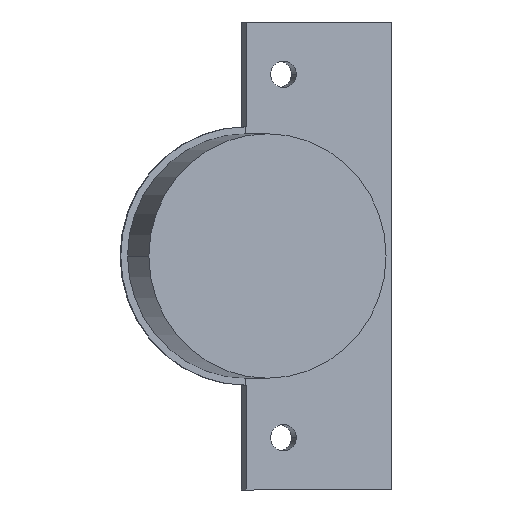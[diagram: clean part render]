
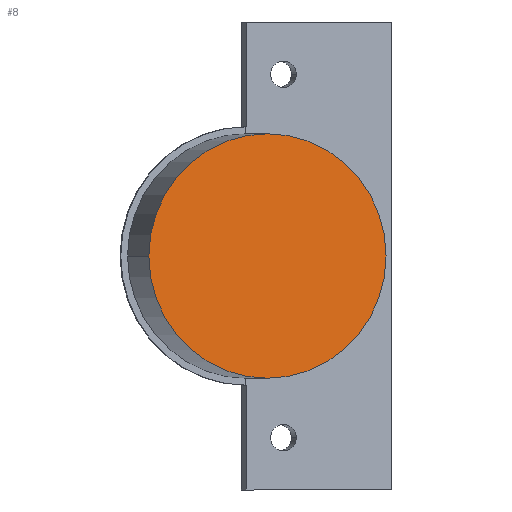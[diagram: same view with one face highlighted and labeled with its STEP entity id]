
A CAD part, front view. The second image highlights one B-rep face of the part: STEP entity #8.
In plain terms, the highlighted planar face has unit normal (0.242, -0.97, 0).
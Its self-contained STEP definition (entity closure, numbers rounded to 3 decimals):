
#8 = ADVANCED_FACE ( 'NONE', ( #852 ), #1262, .T. ) ;
#49 = AXIS2_PLACEMENT_3D ( 'NONE', #1410, #1411, #1412 ) ;
#52 = EDGE_CURVE ( 'NONE', #1163, #1160, #787, .T. ) ;
#168 = EDGE_CURVE ( 'NONE', #1160, #1163, #415, .T. ) ;
#181 = AXIS2_PLACEMENT_3D ( 'NONE', #1261, #1264, #1265 ) ;
#238 = AXIS2_PLACEMENT_3D ( 'NONE', #623, #632, #633 ) ;
#415 = CIRCLE ( 'NONE', #238, 17.5 ) ;
#623 = CARTESIAN_POINT ( 'NONE',  ( 10.048, -12.226, 0. ) ) ;
#632 = DIRECTION ( 'NONE',  ( 0.242, -0.97, 0. ) ) ;
#633 = DIRECTION ( 'NONE',  ( 0.97, 0.242, 0. ) ) ;
#634 = CARTESIAN_POINT ( 'NONE',  ( -6.932, -16.459, 0. ) ) ;
#645 = CARTESIAN_POINT ( 'NONE',  ( 27.028, -7.992, 0. ) ) ;
#787 = CIRCLE ( 'NONE', #49, 17.5 ) ;
#852 = FACE_OUTER_BOUND ( 'NONE', #1018, .T. ) ;
#1018 = EDGE_LOOP ( 'NONE', ( #1075, #1151 ) ) ;
#1075 = ORIENTED_EDGE ( 'NONE', *, *, #168, .T. ) ;
#1151 = ORIENTED_EDGE ( 'NONE', *, *, #52, .T. ) ;
#1160 = VERTEX_POINT ( 'NONE', #634 ) ;
#1163 = VERTEX_POINT ( 'NONE', #645 ) ;
#1261 = CARTESIAN_POINT ( 'NONE',  ( 10.048, -12.226, 0. ) ) ;
#1262 = PLANE ( 'NONE',  #181 ) ;
#1264 = DIRECTION ( 'NONE',  ( 0.242, -0.97, 0. ) ) ;
#1265 = DIRECTION ( 'NONE',  ( 0.97, 0.242, 0. ) ) ;
#1410 = CARTESIAN_POINT ( 'NONE',  ( 10.048, -12.226, 0. ) ) ;
#1411 = DIRECTION ( 'NONE',  ( 0.242, -0.97, 0. ) ) ;
#1412 = DIRECTION ( 'NONE',  ( 0.97, 0.242, 0. ) ) ;
